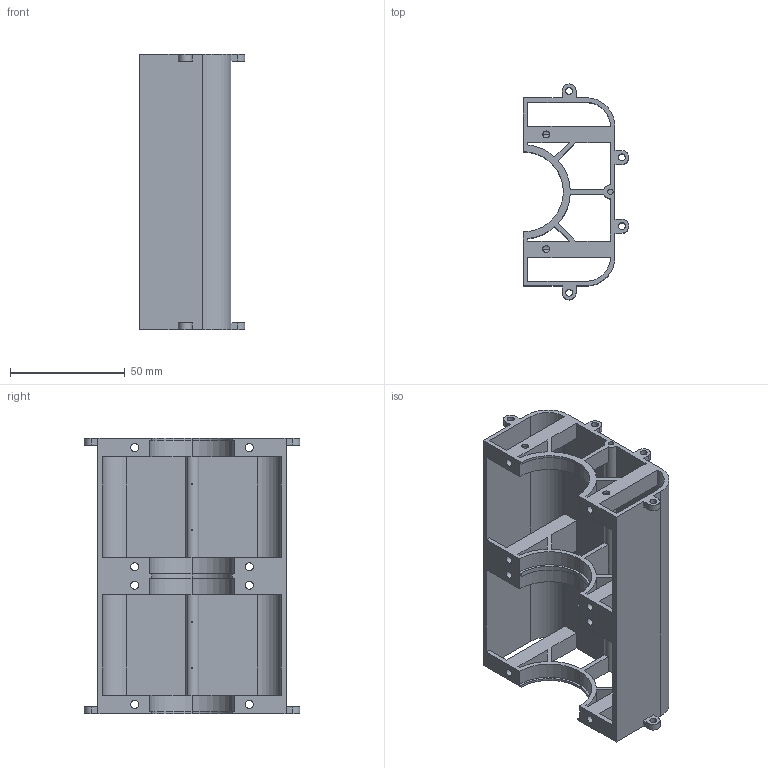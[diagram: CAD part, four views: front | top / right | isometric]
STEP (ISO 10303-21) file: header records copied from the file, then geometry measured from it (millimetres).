
FILE_DESCRIPTION(('STEP AP214'),'1');
FILE_NAME('C:/Users/mashimo/Documents/円弧動エンジン/ボア4.4ｃｍ/TurboCAD/3D/tmp0.STEP','2023-12-27T10:16:33',(' '),(' '),'Spatial InterOp 3D',' ',' ');
FILE_SCHEMA(('automotive_design'));
Length unit declared in the file: millimetre
Products named in the file (1): 1
Bounding box: 46 x 94 x 120 mm (x, y, z)
Volume: 53684.5 mm3; surface area: 60839.6 mm2
Topology: 1 solids, 1 shells, 213 faces, 660 edges, 436 vertices
Faces by surface type: cylinder 112, plane 101
Entity records: 9692 total; most frequent: CARTESIAN_POINT 1794, ORIENTED_EDGE 1320, DIRECTION 1258, EDGE_CURVE 660, VERTEX_POINT 436, AXIS2_PLACEMENT_3D 420, LINE 418, VECTOR 418
